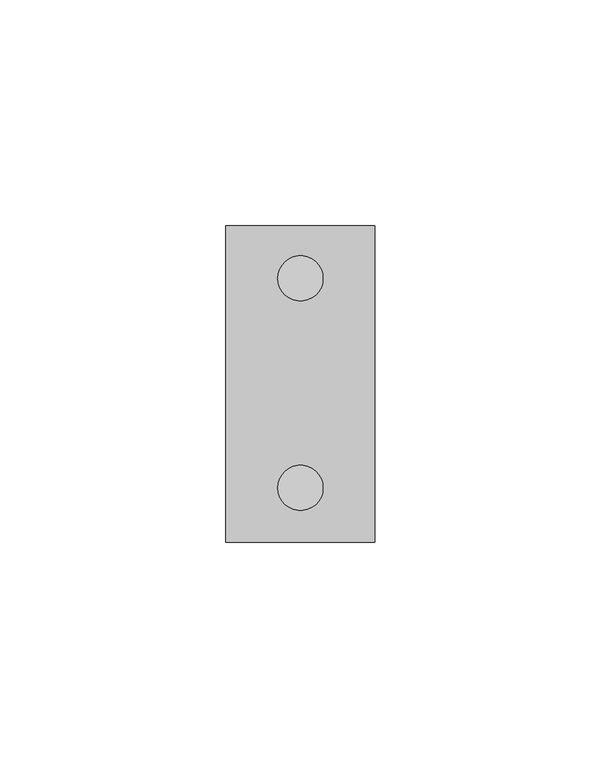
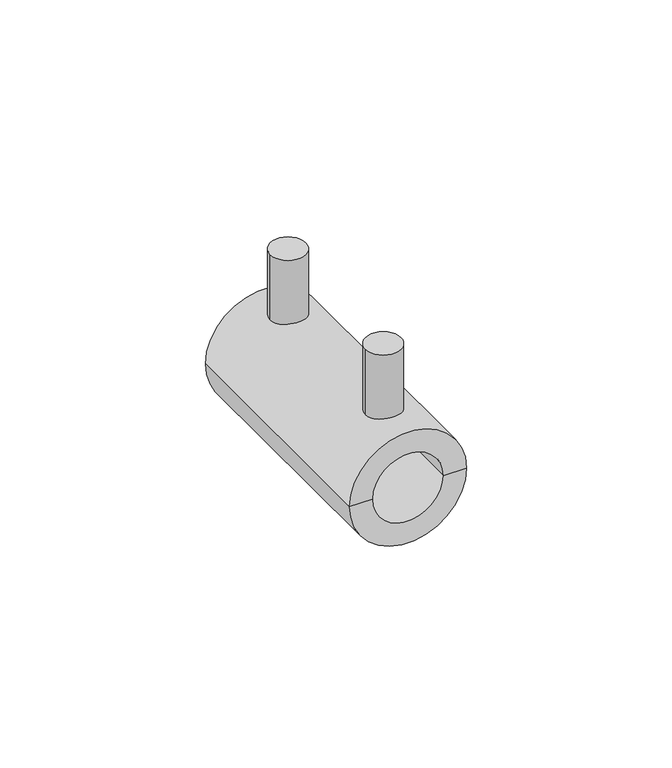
"""IFC4 building model written with IfcOpenShell, lengths in millimetres: pipe fitting geometry, NIRON RED electrico manguito : Estándar."""

from ifc_helpers import new_model, si_unit, point, frame, frame_2d, origin, place, context, project, spatial, polyline, circle_curve, trimmed, segment, composite_curve, outline, extrude, source, transform, mapped, element, save
from ifc_brep_helpers import plane_surface, cylinder_surface, revolved_surface, advanced_brep


def pipe_fitting_9d8f3f08(model_context):
    return source(origin(), model_context, "Body", "SolidModel", [
        advanced_brep(
        [(16.5, 70.0, 0.0), (-16.5, 70.0, 0.0), (-10.0, 70.0, 0.0), (10.0, 70.0, 0.0), (16.5, 0.0, 0.0), (-16.5, 0.0, 0.0), (10.0, 0.0, 0.0), (-10.0, 0.0, 0.0), (10.0, 34.0, 0.0), (-10.0, 34.0, 0.0), (9.0, 34.0, 0.0), (-9.0, 34.0, 0.0), (9.0, 36.0, 0.0), (-9.0, 36.0, 0.0), (10.0, 36.0, 0.0), (-10.0, 36.0, 0.0)],
        [
            (0, 1, circle_curve(frame((0.0, 70.0, 0.0), z_axis=(0.0, 1.0, 0.0), x_axis=(-1.0, 0.0, 0.0)), 16.5)),
            (1, 2),
            (2, 3, circle_curve(frame((0.0, 70.0, 0.0), z_axis=(0.0, -1.0, 0.0), x_axis=(-1.0, 0.0, 0.0)), 10.0)),
            (3, 0),
            (1, 0, circle_curve(frame((0.0, 70.0, 0.0), z_axis=(0.0, 1.0, 0.0), x_axis=(-1.0, 0.0, 0.0)), 16.5)),
            (3, 2, circle_curve(frame((0.0, 70.0, 0.0), z_axis=(0.0, -1.0, 0.0), x_axis=(-1.0, 0.0, 0.0)), 10.0)),
            (4, 5, circle_curve(frame((0.0, 0.0, 0.0), z_axis=(0.0, 1.0, 0.0), x_axis=(-1.0, 0.0, 0.0)), 16.5)),
            (5, 1),
            (0, 4),
            (5, 4, circle_curve(frame((0.0, 0.0, 0.0), z_axis=(0.0, 1.0, 0.0), x_axis=(-1.0, 0.0, 0.0)), 16.5)),
            (6, 7, circle_curve(frame((0.0, 0.0, 0.0), z_axis=(0.0, 1.0, 0.0), x_axis=(-1.0, 0.0, 0.0)), 10.0)),
            (7, 5),
            (4, 6),
            (7, 6, circle_curve(frame((0.0, 0.0, 0.0), z_axis=(0.0, 1.0, 0.0), x_axis=(-1.0, 0.0, 0.0)), 10.0)),
            (8, 9, circle_curve(frame((0.0, 34.0, 0.0), z_axis=(0.0, 1.0, 0.0), x_axis=(-1.0, 0.0, 0.0)), 10.0)),
            (9, 7),
            (6, 8),
            (9, 8, circle_curve(frame((0.0, 34.0, 0.0), z_axis=(0.0, 1.0, 0.0), x_axis=(-1.0, 0.0, 0.0)), 10.0)),
            (10, 11, circle_curve(frame((0.0, 34.0, 0.0), z_axis=(0.0, 1.0, 0.0), x_axis=(-1.0, 0.0, 0.0)), 9.0)),
            (11, 9),
            (8, 10),
            (11, 10, circle_curve(frame((0.0, 34.0, 0.0), z_axis=(0.0, 1.0, 0.0), x_axis=(-1.0, 0.0, 0.0)), 9.0)),
            (12, 13, circle_curve(frame((0.0, 36.0, 0.0), z_axis=(0.0, 1.0, 0.0), x_axis=(-1.0, 0.0, 0.0)), 9.0)),
            (13, 11),
            (10, 12),
            (13, 12, circle_curve(frame((0.0, 36.0, 0.0), z_axis=(0.0, 1.0, 0.0), x_axis=(-1.0, 0.0, 0.0)), 9.0)),
            (14, 15, circle_curve(frame((0.0, 36.0, 0.0), z_axis=(0.0, 1.0, 0.0), x_axis=(-1.0, 0.0, 0.0)), 10.0)),
            (15, 13),
            (12, 14),
            (15, 14, circle_curve(frame((0.0, 36.0, 0.0), z_axis=(0.0, 1.0, 0.0), x_axis=(-1.0, 0.0, 0.0)), 10.0)),
            (2, 15),
            (14, 3),
        ],
        [
            plane_surface(frame((0.0, 70.0, 0.0), z_axis=(0.0, 1.0, 0.0), x_axis=(-1.0, 0.0, 0.0))),
            cylinder_surface(frame((0.0, 95.0, 0.0), z_axis=(0.0, -1.0, 0.0), x_axis=(-1.0, 0.0, 0.0)), 16.5),
            plane_surface(frame((0.0, 0.0, 0.0), z_axis=(0.0, -1.0, 0.0), x_axis=(-1.0, 0.0, 0.0))),
            revolved_surface(polyline([(-10.0, 0.0, 0.0), (-10.0, 34.0, 0.0)]), (0.0, 95.0, 0.0), (0.0, -1.0, 0.0)),
            plane_surface(frame((0.0, 34.0, 0.0), z_axis=(0.0, -1.0, 0.0), x_axis=(-1.0, 0.0, 0.0))),
            revolved_surface(polyline([(-9.0, 34.0, 0.0), (-9.0, 36.0, 0.0)]), (0.0, 95.0, 0.0), (0.0, -1.0, 0.0)),
            plane_surface(frame((0.0, 36.0, 0.0), z_axis=(0.0, 1.0, 0.0), x_axis=(-1.0, 0.0, 0.0))),
            revolved_surface(polyline([(-10.0, 36.0, 0.0), (-10.0, 70.0, 0.0)]), (0.0, 95.0, 0.0), (0.0, -1.0, 0.0)),
        ],
        [
            (0, [[1, 2, 3, 4]]),
            (0, [[5, -4, 6, -2]]),
            (1, [[7, 8, -1, 9]]),
            (1, [[10, -9, -5, -8]]),
            (2, [[11, 12, -7, 13]]),
            (2, [[14, -13, -10, -12]]),
            (3, [[15, 16, -11, 17]]),
            (3, [[18, -17, -14, -16]]),
            (4, [[19, 20, -15, 21]]),
            (4, [[22, -21, -18, -20]]),
            (5, [[23, 24, -19, 25]]),
            (5, [[26, -25, -22, -24]]),
            (6, [[27, 28, -23, 29]]),
            (6, [[30, -29, -26, -28]]),
            (7, [[-3, 31, -27, 32]]),
            (7, [[-6, -32, -30, -31]]),
        ],
    ),
        extrude(outline(composite_curve([segment(trimmed(circle_curve(frame_2d((0.0, 12.0)), 5.0), [point((-5.0, 12.0))], [point((5.0, 12.0))], False, "CARTESIAN"), True, "CONTINUOUS"), segment(trimmed(circle_curve(frame_2d((0.0, 12.0)), 5.0), [point((5.0, 12.0))], [point((-5.0, 12.0))], False, "CARTESIAN"), True, "CONTINUOUS")], self_intersect=False)), frame((0.0, 0.0, 13.5), z_axis=(0.0, 0.0, 1.0), x_axis=(1.0, 0.0, 0.0)), (0.0, 0.0, 1.0), 22.0),
        extrude(outline(composite_curve([segment(trimmed(circle_curve(frame_2d((0.0, 58.3742842)), 5.0), [point((-5.0, 58.3742842))], [point((5.0, 58.3742842))], False, "CARTESIAN"), True, "CONTINUOUS"), segment(trimmed(circle_curve(frame_2d((0.0, 58.3742842)), 5.0), [point((5.0, 58.3742842))], [point((-5.0, 58.3742842))], False, "CARTESIAN"), True, "CONTINUOUS")], self_intersect=False)), frame((0.0, 0.0, 13.5), z_axis=(0.0, 0.0, 1.0), x_axis=(1.0, 0.0, 0.0)), (0.0, 0.0, 1.0), 22.0),
    ])


if __name__ == "__main__":
    model = new_model("IFC4")
    model_context = context("Model", 3, world=origin())
    ifc_project = project(units=[si_unit("LENGTHUNIT", "METRE", prefix="MILLI")], contexts=[model_context])
    site = spatial("IfcSite", under=ifc_project)
    building = spatial("IfcBuilding", under=site)
    placement = place(None, origin())
    pipe_fitting_shape = pipe_fitting_9d8f3f08(model_context)
    element("IfcPipeFitting", 1, ObjectType="NIRON RED electrico manguito : Estándar", at=placement, inside=building, context=model_context, shape_type="MappedRepresentation", body=[
        mapped(pipe_fitting_shape, transform((0.0, 0.0, 0.0), x_axis=(1.0, 0.0, 0.0), y_axis=(0.0, 1.0, 0.0), z_axis=(0.0, 0.0, 1.0))),
    ])
    save(model, "model.ifc")
